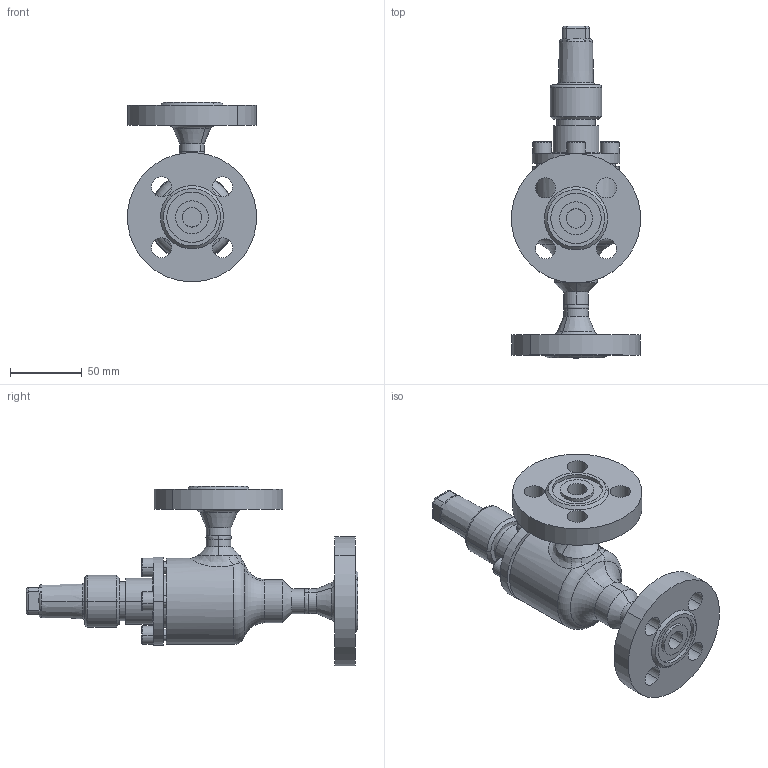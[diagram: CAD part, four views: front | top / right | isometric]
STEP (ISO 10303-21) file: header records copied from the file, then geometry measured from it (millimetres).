
FILE_DESCRIPTION (( 'STEP AP214' ), '1' );
FILE_NAME ('HRAB12420D08-DN010_DIN-FL-N_PS40.STEP', '2006-04-27T12:06:45', ( 'Herr Grams' ), ( 'AWP GmbH' ), 'SwSTEP 2.0', 'SolidWorks 2002296', '' );
FILE_SCHEMA (( 'AUTOMOTIVE_DESIGN' ));
Length unit declared in the file: millimetre
Products named in the file (10): HRAB12420D08-DN010_DIN-FL-N_PS40; Gehäuse-kpl16420-DN010_DIN_PS40_Standard; Gehäuse16400-DN010_Standard; Flansch-DIN2635-Nut_PS40_DIN-Flansch-DN010_PS40-Nut; bead16420-Geh-010-1_Standard; bead16420-Geh-010-2_Standard; AVB16300K10_Deck+Schr-DN10-20_Standard; Deckel16300K10-DN10-20_Standard; Zylinderschraube-DIN912_M 8x 16; Kappe96300E10_DN6-20_Standard
Assembly tree (13 placements, depth 3):
  HRAB12420D08-DN010_DIN-FL-N_PS40
    Gehäuse-kpl16420-DN010_DIN_PS40_Standard
      Flansch-DIN2635-Nut_PS40_DIN-Flansch-DN010_PS40-Nut  x2
      bead16420-Geh-010-1_Standard
      bead16420-Geh-010-2_Standard
      Gehäuse16400-DN010_Standard
    Kappe96300E10_DN6-20_Standard
    AVB16300K10_Deck+Schr-DN10-20_Standard
      Zylinderschraube-DIN912_M 8x 16  x4
      Deckel16300K10-DN10-20_Standard
Bounding box: 89.66 x 231 x 124.83 mm (x, y, z)
Volume: 421897.6 mm3; surface area: 92831.8 mm2
Topology: 11 solids, 11 shells, 293 faces, 643 edges, 402 vertices
Faces by surface type: cylinder 118, plane 85, cone 46, torus 30, bspline 14
Entity records: 18141 total; most frequent: CARTESIAN_POINT 12750, DIRECTION 1056, ORIENTED_EDGE 914, EDGE_CURVE 457, AXIS2_PLACEMENT_3D 452, VERTEX_POINT 284, EDGE_LOOP 249, CIRCLE 241
